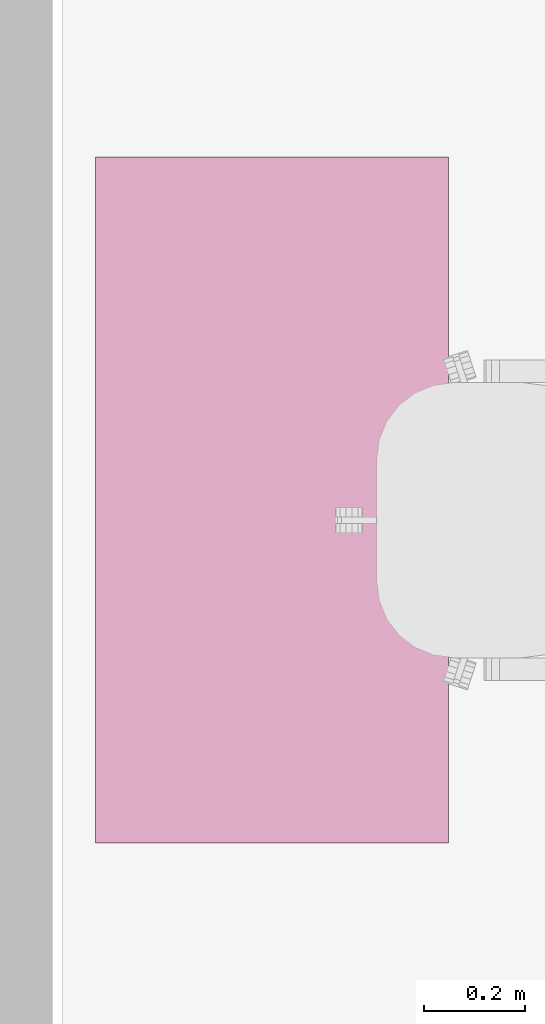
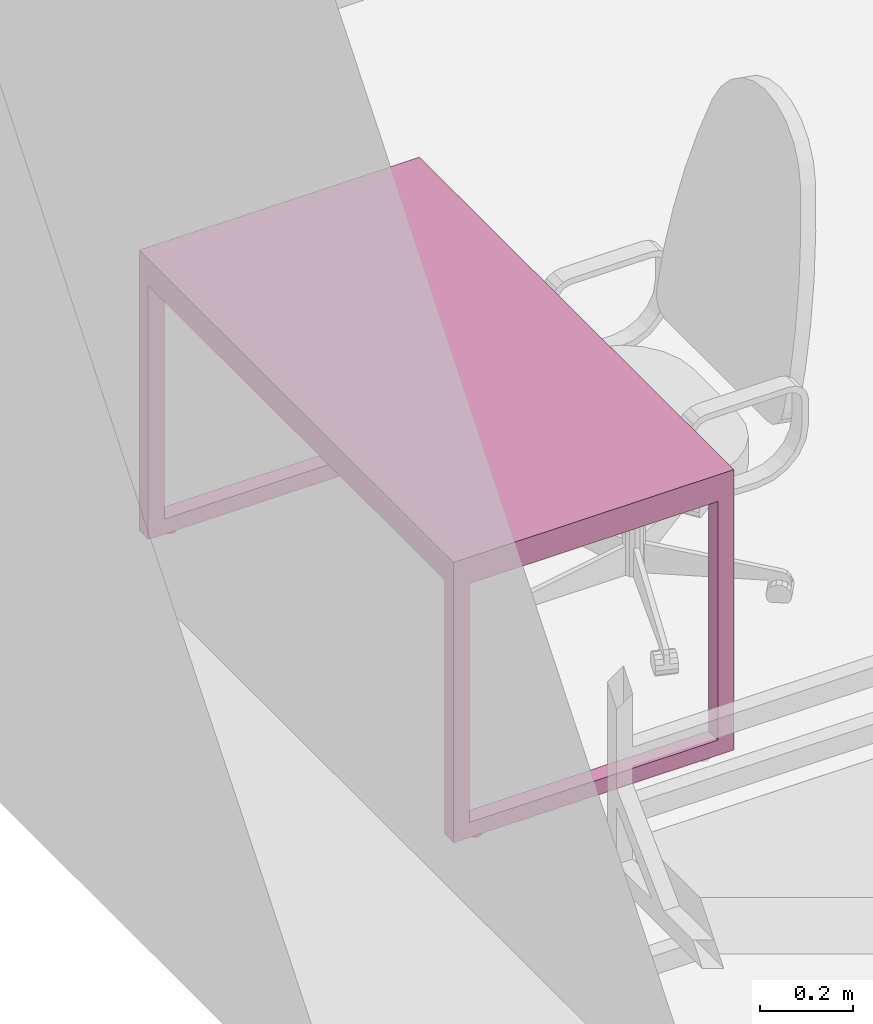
# One storey, part 20 of 46: 1 furnishing.
"""IFC2X3 building model written with IfcOpenShell, lengths in millimetres."""

from ifc_helpers import new_model, entity, si_unit, converted_unit, derived_unit, direction, frame, origin, place, context, subcontext, project, spatial, faceted_brep, source, transform, mapped, material, material_list, type_object, type_shapes, element, save


model = new_model("IFC2X3")

# Units and contexts
model_context = context("Model", 3, precision=0.01, world=origin(), true_north=direction((6.12303176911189e-17, 1.0)))
body_context = subcontext(model_context, "Body", "Model", "MODEL_VIEW")
ifc_project = project(units=[si_unit("LENGTHUNIT", "METRE", prefix="MILLI"), si_unit("AREAUNIT", "SQUARE_METRE"), si_unit("VOLUMEUNIT", "CUBIC_METRE"), converted_unit("PLANEANGLEUNIT", "DEGREE", entity("IfcRatioMeasure", 0.0174532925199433), si_unit("PLANEANGLEUNIT", "RADIAN"), dimensions=[0, 0, 0, 0, 0, 0, 0]), si_unit("MASSUNIT", "GRAM", prefix="KILO"), derived_unit("MASSDENSITYUNIT", [(si_unit("MASSUNIT", "GRAM", prefix="KILO"), 1), (si_unit("LENGTHUNIT", "METRE"), -3)]), si_unit("TIMEUNIT", "SECOND"), si_unit("FREQUENCYUNIT", "HERTZ"), si_unit("THERMODYNAMICTEMPERATUREUNIT", "DEGREE_CELSIUS"), derived_unit("THERMALTRANSMITTANCEUNIT", [(si_unit("MASSUNIT", "GRAM", prefix="KILO"), 1), (si_unit("THERMODYNAMICTEMPERATUREUNIT", "KELVIN"), -1), (si_unit("TIMEUNIT", "SECOND"), -3)]), derived_unit("VOLUMETRICFLOWRATEUNIT", [(si_unit("LENGTHUNIT", "METRE"), 3), (si_unit("TIMEUNIT", "SECOND"), -1)]), si_unit("ELECTRICCURRENTUNIT", "AMPERE"), si_unit("ELECTRICVOLTAGEUNIT", "VOLT"), si_unit("POWERUNIT", "WATT"), si_unit("FORCEUNIT", "NEWTON", prefix="KILO"), si_unit("ILLUMINANCEUNIT", "LUX"), si_unit("LUMINOUSFLUXUNIT", "LUMEN"), si_unit("LUMINOUSINTENSITYUNIT", "CANDELA"), derived_unit("USERDEFINED", [(si_unit("MASSUNIT", "GRAM", prefix="KILO"), -1), (si_unit("LENGTHUNIT", "METRE"), -2), (si_unit("TIMEUNIT", "SECOND"), 3), (si_unit("LUMINOUSFLUXUNIT", "LUMEN"), 1)]), derived_unit("LINEARVELOCITYUNIT", [(si_unit("LENGTHUNIT", "METRE"), 1), (si_unit("TIMEUNIT", "SECOND"), -1)]), si_unit("PRESSUREUNIT", "PASCAL"), derived_unit("USERDEFINED", [(si_unit("LENGTHUNIT", "METRE"), -2), (si_unit("MASSUNIT", "GRAM", prefix="KILO"), 1), (si_unit("TIMEUNIT", "SECOND"), -2)]), derived_unit("LINEARFORCEUNIT", [(si_unit("MASSUNIT", "GRAM", prefix="KILO"), 1), (si_unit("LENGTHUNIT", "METRE"), 1), (si_unit("TIMEUNIT", "SECOND"), -2), (si_unit("LENGTHUNIT", "METRE"), -1)]), derived_unit("PLANARFORCEUNIT", [(si_unit("MASSUNIT", "GRAM", prefix="KILO"), 1), (si_unit("LENGTHUNIT", "METRE"), 1), (si_unit("TIMEUNIT", "SECOND"), -2), (si_unit("LENGTHUNIT", "METRE"), -2)])], contexts=[model_context])

# Site, building, storey, space
site_placement = place(None, origin())
site = spatial("IfcSite", under=ifc_project, at=site_placement, Name="Default", CompositionType="ELEMENT")
building_placement = place(site_placement, origin())
building = spatial("IfcBuilding", under=site, at=building_placement, Name="SMA ARH", CompositionType="ELEMENT")
storey_placement = place(building_placement, frame((0.0, 0.0, 9910.0)))
storey = spatial("IfcBuildingStorey", under=building, at=storey_placement, Name="4 Korrus", CompositionType="ELEMENT", Elevation=9909.9999999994)
space_placement = place(storey_placement, origin())
space = spatial("IfcSpace", under=storey, at=space_placement, Name="4-15", CompositionType="ELEMENT", InteriorOrExteriorSpace="INTERNAL")

# Furnishing
ifc_material = material(Name="<Unnamed>")
ifc_material_list = material_list([ifc_material, ifc_material])
furniture_type = type_object("IfcFurnitureType", Name="kirjutuslaud 1360x700mm:kirjutuslaud 1360x700mm", material=ifc_material_list)
shared_shape = source(origin(), body_context, "Body", "Brep", [
    faceted_brep([(680.0, -350.0, 720.0), (680.0, 350.0, 720.0), (680.0, 350.0, 750.0), (680.0, -350.0, 750.0), (-680.0, -350.0, 720.0), (-680.0, -350.0, 750.0), (-680.0, 350.0, 750.0), (-680.0, 350.0, 720.0)], [[[0, 1, 2, 3]], [[4, 5, 6, 7]], [[1, 0, 4, 7]], [[2, 1, 7, 6]], [[3, 2, 6, 5]], [[0, 3, 5, 4]]]),
    faceted_brep([(-640.0, -310.0, 680.0), (-640.0, 310.0, 680.0), (-640.0, 310.0, 720.0), (-640.0, -310.0, 720.0), (-680.0, -350.0, 720.0), (-680.0, 350.0, 720.0), (-680.0, 350.0, 10.0), (-680.0, -350.0, 10.0), (-680.0, 310.0, 680.0), (-680.0, -310.0, 680.0), (-680.0, -310.0, 50.0), (-680.0, 310.0, 50.0), (-640.0, -350.0, 10.0), (-640.0, -350.0, 680.0), (640.0, -350.0, 680.0), (640.0, -350.0, 10.0), (680.0, -350.0, 10.0), (680.0, -350.0, 720.0), (-640.0, 350.0, 10.0), (680.0, 350.0, 720.0), (680.0, 350.0, 10.0), (640.0, 350.0, 10.0), (640.0, 350.0, 680.0), (-640.0, 350.0, 680.0), (640.0, 310.0, 720.0), (640.0, -310.0, 720.0), (-640.0, 310.0, 50.0), (-640.0, -310.0, 50.0), (640.0, -310.0, 680.0), (640.0, 310.0, 680.0), (680.0, 310.0, 680.0), (680.0, 310.0, 50.0), (680.0, -310.0, 50.0), (680.0, -310.0, 680.0), (640.0, -310.0, 50.0), (640.0, 310.0, 50.0)], [[[0, 1, 2, 3]], [[4, 5, 6, 7], [8, 9, 10, 11]], [[4, 7, 12, 13, 14, 15, 16, 17]], [[18, 12, 7, 6]], [[6, 5, 19, 20, 21, 22, 23, 18]], [[19, 5, 4, 17], [2, 24, 25, 3]], [[26, 1, 8, 11]], [[27, 26, 11, 10]], [[0, 27, 10, 9]], [[1, 0, 9, 8]], [[14, 13, 0, 28]], [[24, 2, 1, 29]], [[3, 25, 28, 0]], [[17, 16, 20, 19], [30, 31, 32, 33]], [[21, 15, 14, 28, 34, 35, 29, 22]], [[20, 16, 15, 21]], [[31, 30, 29, 35]], [[32, 31, 35, 34]], [[33, 32, 34, 28]], [[30, 33, 28, 29]], [[29, 28, 25, 24]], [[29, 1, 23, 22]], [[12, 18, 23, 1, 26, 27, 0, 13]]]),
    faceted_brep([(-663.729456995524, -270.466136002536, 0.0), (-659.847171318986, -269.955023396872, 0.0), (-655.964885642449, -270.466136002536, 0.0), (-652.347171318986, -271.964642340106, 0.0), (-649.240569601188, -274.348421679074, 0.0), (-646.85679026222, -277.455023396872, 0.0), (-645.35828392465, -281.072737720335, 0.0), (-644.847171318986, -284.955023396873, 0.0), (-645.35828392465, -288.83730907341, 0.0), (-646.85679026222, -292.455023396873, 0.0), (-649.240569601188, -295.561625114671, 0.0), (-652.347171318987, -297.945404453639, 0.0), (-655.964885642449, -299.443910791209, 0.0), (-659.847171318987, -299.955023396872, 0.0), (-663.729456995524, -299.443910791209, 0.0), (-667.347171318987, -297.945404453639, 0.0), (-670.453773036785, -295.561625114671, 0.0), (-672.837552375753, -292.455023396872, 0.0), (-674.336058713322, -288.83730907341, 0.0), (-674.847171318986, -284.955023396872, 0.0), (-674.336058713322, -281.072737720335, 0.0), (-672.837552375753, -277.455023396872, 0.0), (-670.453773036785, -274.348421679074, 0.0), (-667.347171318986, -271.964642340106, 0.0), (-655.964885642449, -299.443910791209, 10.0), (-652.347171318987, -297.945404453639, 10.0), (-649.240569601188, -295.561625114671, 10.0), (-646.85679026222, -292.455023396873, 10.0), (-645.35828392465, -288.83730907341, 10.0), (-644.847171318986, -284.955023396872, 10.0), (-645.35828392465, -281.072737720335, 10.0), (-646.85679026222, -277.455023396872, 10.0), (-649.240569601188, -274.348421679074, 10.0), (-652.347171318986, -271.964642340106, 10.0), (-655.964885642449, -270.466136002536, 10.0), (-659.847171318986, -269.955023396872, 10.0), (-663.729456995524, -270.466136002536, 10.0), (-667.347171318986, -271.964642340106, 10.0), (-670.453773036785, -274.348421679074, 10.0), (-672.837552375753, -277.455023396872, 10.0), (-674.336058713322, -281.072737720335, 10.0), (-674.847171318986, -284.955023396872, 10.0), (-674.336058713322, -288.83730907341, 10.0), (-672.837552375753, -292.455023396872, 10.0), (-670.453773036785, -295.561625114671, 10.0), (-667.347171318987, -297.945404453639, 10.0), (-663.729456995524, -299.443910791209, 10.0), (-659.847171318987, -299.955023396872, 10.0)], [[[0, 1, 2, 3, 4, 5, 6, 7, 8, 9, 10, 11, 12, 13, 14, 15, 16, 17, 18, 19, 20, 21, 22, 23]], [[24, 25, 26, 27, 28, 29, 30, 31, 32, 33, 34, 35, 36, 37, 38, 39, 40, 41, 42, 43, 44, 45, 46, 47]], [[18, 42, 41, 19]], [[17, 43, 42, 18]], [[45, 44, 16, 15]], [[17, 16, 44, 43]], [[46, 45, 15, 14]], [[47, 46, 14, 13]], [[12, 24, 47, 13]], [[11, 25, 24, 12]], [[27, 26, 10, 9]], [[11, 10, 26, 25]], [[28, 27, 9, 8]], [[29, 28, 8, 7]], [[6, 30, 29, 7]], [[5, 31, 30, 6]], [[33, 32, 4, 3]], [[5, 4, 32, 31]], [[34, 33, 3, 2]], [[35, 34, 2, 1]], [[0, 36, 35, 1]], [[23, 37, 36, 0]], [[39, 38, 22, 21]], [[23, 22, 38, 37]], [[40, 39, 21, 20]], [[41, 40, 20, 19]]]),
    faceted_brep([(-655.964885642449, 270.466136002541, 10.0), (-652.347171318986, 271.964642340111, 10.0), (-649.240569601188, 274.348421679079, 10.0), (-646.85679026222, 277.455023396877, 10.0), (-645.35828392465, 281.07273772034, 10.0), (-644.847171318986, 284.955023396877, 10.0), (-645.35828392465, 288.837309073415, 10.0), (-646.85679026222, 292.455023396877, 10.0), (-649.240569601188, 295.561625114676, 10.0), (-652.347171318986, 297.945404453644, 10.0), (-655.964885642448, 299.443910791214, 10.0), (-659.847171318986, 299.955023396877, 10.0), (-663.729456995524, 299.443910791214, 10.0), (-667.347171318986, 297.945404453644, 10.0), (-670.453773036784, 295.561625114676, 10.0), (-672.837552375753, 292.455023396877, 10.0), (-674.336058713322, 288.837309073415, 10.0), (-674.847171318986, 284.955023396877, 10.0), (-674.336058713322, 281.07273772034, 10.0), (-672.837552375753, 277.455023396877, 10.0), (-670.453773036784, 274.348421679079, 10.0), (-667.347171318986, 271.964642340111, 10.0), (-663.729456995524, 270.466136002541, 10.0), (-659.847171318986, 269.955023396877, 10.0), (-655.964885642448, 299.443910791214, 0.0), (-652.347171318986, 297.945404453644, 0.0), (-649.240569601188, 295.561625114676, 0.0), (-646.85679026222, 292.455023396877, 0.0), (-645.35828392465, 288.837309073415, 0.0), (-644.847171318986, 284.955023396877, 0.0), (-645.35828392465, 281.07273772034, 0.0), (-646.85679026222, 277.455023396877, 0.0), (-649.240569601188, 274.348421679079, 0.0), (-652.347171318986, 271.964642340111, 0.0), (-655.964885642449, 270.466136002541, 0.0), (-659.847171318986, 269.955023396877, 0.0), (-663.729456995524, 270.466136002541, 0.0), (-667.347171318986, 271.964642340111, 0.0), (-670.453773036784, 274.348421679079, 0.0), (-672.837552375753, 277.455023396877, 0.0), (-674.336058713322, 281.07273772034, 0.0), (-674.847171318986, 284.955023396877, 0.0), (-674.336058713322, 288.837309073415, 0.0), (-672.837552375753, 292.455023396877, 0.0), (-670.453773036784, 295.561625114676, 0.0), (-667.347171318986, 297.945404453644, 0.0), (-663.729456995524, 299.443910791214, 0.0), (-659.847171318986, 299.955023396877, 0.0)], [[[0, 1, 2, 3, 4, 5, 6, 7, 8, 9, 10, 11, 12, 13, 14, 15, 16, 17, 18, 19, 20, 21, 22, 23]], [[24, 25, 26, 27, 28, 29, 30, 31, 32, 33, 34, 35, 36, 37, 38, 39, 40, 41, 42, 43, 44, 45, 46, 47]], [[40, 18, 17, 41]], [[39, 19, 18, 40]], [[21, 20, 38, 37]], [[39, 38, 20, 19]], [[22, 21, 37, 36]], [[23, 22, 36, 35]], [[34, 0, 23, 35]], [[33, 1, 0, 34]], [[3, 2, 32, 31]], [[33, 32, 2, 1]], [[4, 3, 31, 30]], [[5, 4, 30, 29]], [[28, 6, 5, 29]], [[27, 7, 6, 28]], [[9, 8, 26, 25]], [[27, 26, 8, 7]], [[10, 9, 25, 24]], [[11, 10, 24, 47]], [[46, 12, 11, 47]], [[45, 13, 12, 46]], [[15, 14, 44, 43]], [[45, 44, 14, 13]], [[16, 15, 43, 42]], [[17, 16, 42, 41]]]),
    faceted_brep([(656.270543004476, -270.466136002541, 0.0), (660.152828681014, -269.955023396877, 0.0), (664.035114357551, -270.466136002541, 0.0), (667.652828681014, -271.96464234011, 0.0), (670.759430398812, -274.348421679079, 0.0), (673.14320973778, -277.455023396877, 0.0), (674.64171607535, -281.072737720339, 0.0), (675.152828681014, -284.955023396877, 0.0), (674.64171607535, -288.837309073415, 0.0), (673.14320973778, -292.455023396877, 0.0), (670.759430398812, -295.561625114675, 0.0), (667.652828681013, -297.945404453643, 0.0), (664.035114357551, -299.443910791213, 0.0), (660.152828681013, -299.955023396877, 0.0), (656.270543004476, -299.443910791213, 0.0), (652.652828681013, -297.945404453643, 0.0), (649.546226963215, -295.561625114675, 0.0), (647.162447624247, -292.455023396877, 0.0), (645.663941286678, -288.837309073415, 0.0), (645.152828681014, -284.955023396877, 0.0), (645.663941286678, -281.072737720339, 0.0), (647.162447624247, -277.455023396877, 0.0), (649.546226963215, -274.348421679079, 0.0), (652.652828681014, -271.96464234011, 0.0), (664.035114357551, -299.443910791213, 10.0), (667.652828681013, -297.945404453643, 10.0), (670.759430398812, -295.561625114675, 10.0), (673.14320973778, -292.455023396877, 10.0), (674.64171607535, -288.837309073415, 10.0), (675.152828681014, -284.955023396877, 10.0), (674.64171607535, -281.072737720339, 10.0), (673.14320973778, -277.455023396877, 10.0), (670.759430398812, -274.348421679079, 10.0), (667.652828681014, -271.96464234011, 10.0), (664.035114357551, -270.466136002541, 10.0), (660.152828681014, -269.955023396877, 10.0), (656.270543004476, -270.466136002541, 10.0), (652.652828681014, -271.96464234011, 10.0), (649.546226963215, -274.348421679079, 10.0), (647.162447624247, -277.455023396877, 10.0), (645.663941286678, -281.072737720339, 10.0), (645.152828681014, -284.955023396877, 10.0), (645.663941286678, -288.837309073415, 10.0), (647.162447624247, -292.455023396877, 10.0), (649.546226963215, -295.561625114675, 10.0), (652.652828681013, -297.945404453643, 10.0), (656.270543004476, -299.443910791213, 10.0), (660.152828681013, -299.955023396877, 10.0)], [[[0, 1, 2, 3, 4, 5, 6, 7, 8, 9, 10, 11, 12, 13, 14, 15, 16, 17, 18, 19, 20, 21, 22, 23]], [[24, 25, 26, 27, 28, 29, 30, 31, 32, 33, 34, 35, 36, 37, 38, 39, 40, 41, 42, 43, 44, 45, 46, 47]], [[18, 42, 41, 19]], [[17, 43, 42, 18]], [[45, 44, 16, 15]], [[17, 16, 44, 43]], [[46, 45, 15, 14]], [[47, 46, 14, 13]], [[12, 24, 47, 13]], [[11, 25, 24, 12]], [[27, 26, 10, 9]], [[11, 10, 26, 25]], [[28, 27, 9, 8]], [[29, 28, 8, 7]], [[6, 30, 29, 7]], [[5, 31, 30, 6]], [[33, 32, 4, 3]], [[5, 4, 32, 31]], [[34, 33, 3, 2]], [[35, 34, 2, 1]], [[0, 36, 35, 1]], [[23, 37, 36, 0]], [[39, 38, 22, 21]], [[23, 22, 38, 37]], [[40, 39, 21, 20]], [[41, 40, 20, 19]]]),
    faceted_brep([(664.035114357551, 270.466136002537, 10.0), (667.652828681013, 271.964642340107, 10.0), (670.759430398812, 274.348421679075, 10.0), (673.14320973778, 277.455023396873, 10.0), (674.64171607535, 281.072737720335, 10.0), (675.152828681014, 284.955023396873, 10.0), (674.64171607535, 288.837309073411, 10.0), (673.14320973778, 292.455023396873, 10.0), (670.759430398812, 295.561625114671, 10.0), (667.652828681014, 297.94540445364, 10.0), (664.035114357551, 299.443910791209, 10.0), (660.152828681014, 299.955023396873, 10.0), (656.270543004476, 299.443910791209, 10.0), (652.652828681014, 297.94540445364, 10.0), (649.546226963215, 295.561625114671, 10.0), (647.162447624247, 292.455023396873, 10.0), (645.663941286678, 288.837309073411, 10.0), (645.152828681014, 284.955023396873, 10.0), (645.663941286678, 281.072737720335, 10.0), (647.162447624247, 277.455023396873, 10.0), (649.546226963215, 274.348421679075, 10.0), (652.652828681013, 271.964642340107, 10.0), (656.270543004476, 270.466136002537, 10.0), (660.152828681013, 269.955023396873, 10.0), (664.035114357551, 299.443910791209, 0.0), (667.652828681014, 297.94540445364, 0.0), (670.759430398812, 295.561625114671, 0.0), (673.14320973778, 292.455023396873, 0.0), (674.64171607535, 288.837309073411, 0.0), (675.152828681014, 284.955023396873, 0.0), (674.64171607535, 281.072737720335, 0.0), (673.14320973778, 277.455023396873, 0.0), (670.759430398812, 274.348421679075, 0.0), (667.652828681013, 271.964642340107, 0.0), (664.035114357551, 270.466136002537, 0.0), (660.152828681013, 269.955023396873, 0.0), (656.270543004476, 270.466136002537, 0.0), (652.652828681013, 271.964642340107, 0.0), (649.546226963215, 274.348421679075, 0.0), (647.162447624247, 277.455023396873, 0.0), (645.663941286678, 281.072737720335, 0.0), (645.152828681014, 284.955023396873, 0.0), (645.663941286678, 288.837309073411, 0.0), (647.162447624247, 292.455023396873, 0.0), (649.546226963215, 295.561625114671, 0.0), (652.652828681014, 297.94540445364, 0.0), (656.270543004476, 299.443910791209, 0.0), (660.152828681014, 299.955023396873, 0.0)], [[[0, 1, 2, 3, 4, 5, 6, 7, 8, 9, 10, 11, 12, 13, 14, 15, 16, 17, 18, 19, 20, 21, 22, 23]], [[24, 25, 26, 27, 28, 29, 30, 31, 32, 33, 34, 35, 36, 37, 38, 39, 40, 41, 42, 43, 44, 45, 46, 47]], [[40, 18, 17, 41]], [[39, 19, 18, 40]], [[21, 20, 38, 37]], [[39, 38, 20, 19]], [[22, 21, 37, 36]], [[23, 22, 36, 35]], [[34, 0, 23, 35]], [[33, 1, 0, 34]], [[3, 2, 32, 31]], [[33, 32, 2, 1]], [[4, 3, 31, 30]], [[5, 4, 30, 29]], [[28, 6, 5, 29]], [[27, 7, 6, 28]], [[9, 8, 26, 25]], [[27, 26, 8, 7]], [[10, 9, 25, 24]], [[11, 10, 24, 47]], [[46, 12, 11, 47]], [[45, 13, 12, 46]], [[15, 14, 44, 43]], [[45, 44, 14, 13]], [[16, 15, 43, 42]], [[17, 16, 42, 41]]]),
])
type_shapes(furniture_type, [shared_shape])
furnishing_placement = place(space_placement, frame((415.923761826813, 3801.8985721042, 0.0), z_axis=(0.0, 0.0, 1.0), x_axis=(0.0, -1.0, 0.0)))
element("IfcFurnishingElement", 1, at=furnishing_placement, inside=space, type_object=furniture_type, Name="kirjutuslaud 1360x700mm:kirjutuslaud 1360x700mm", ObjectType="kirjutuslaud 1360x700mm:kirjutuslaud 1360x700mm", context=body_context, shape_type="MappedRepresentation", body=[
    mapped(shared_shape, transform((0.0, 0.0, 0.0), scale=1.0)),
])

save(model, "model.ifc")
